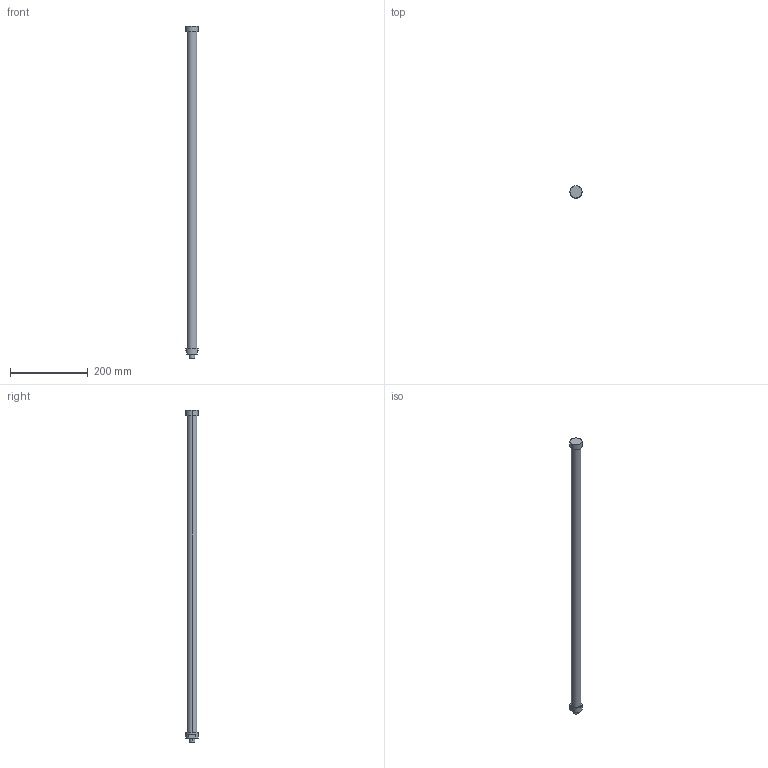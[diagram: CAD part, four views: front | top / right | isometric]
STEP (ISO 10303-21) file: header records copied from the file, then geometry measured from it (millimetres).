
FILE_DESCRIPTION(('STEP AP214'),'1');
FILE_NAME('C:/Users/Autocad/Desktop/L854-C630S1-FN.stp','2014-02-10T11:04:05',(' '),(' '),'Spatial InterOp 3D',' ',' ');
FILE_SCHEMA(('automotive_design'));
Length unit declared in the file: metre
Products named in the file (2): 1; 2
Bounding box: 31 x 31 x 854 mm (x, y, z)
Volume: 422785.4 mm3; surface area: 69898.3 mm2
Topology: 1 solids, 4 shells, 23 faces, 54 edges, 40 vertices
Faces by surface type: cylinder 12, plane 11
Entity records: 916 total; most frequent: DIRECTION 136, CARTESIAN_POINT 119, ORIENTED_EDGE 96, AXIS2_PLACEMENT_3D 57, EDGE_CURVE 54, VERTEX_POINT 40, CIRCLE 32, EDGE_LOOP 28
